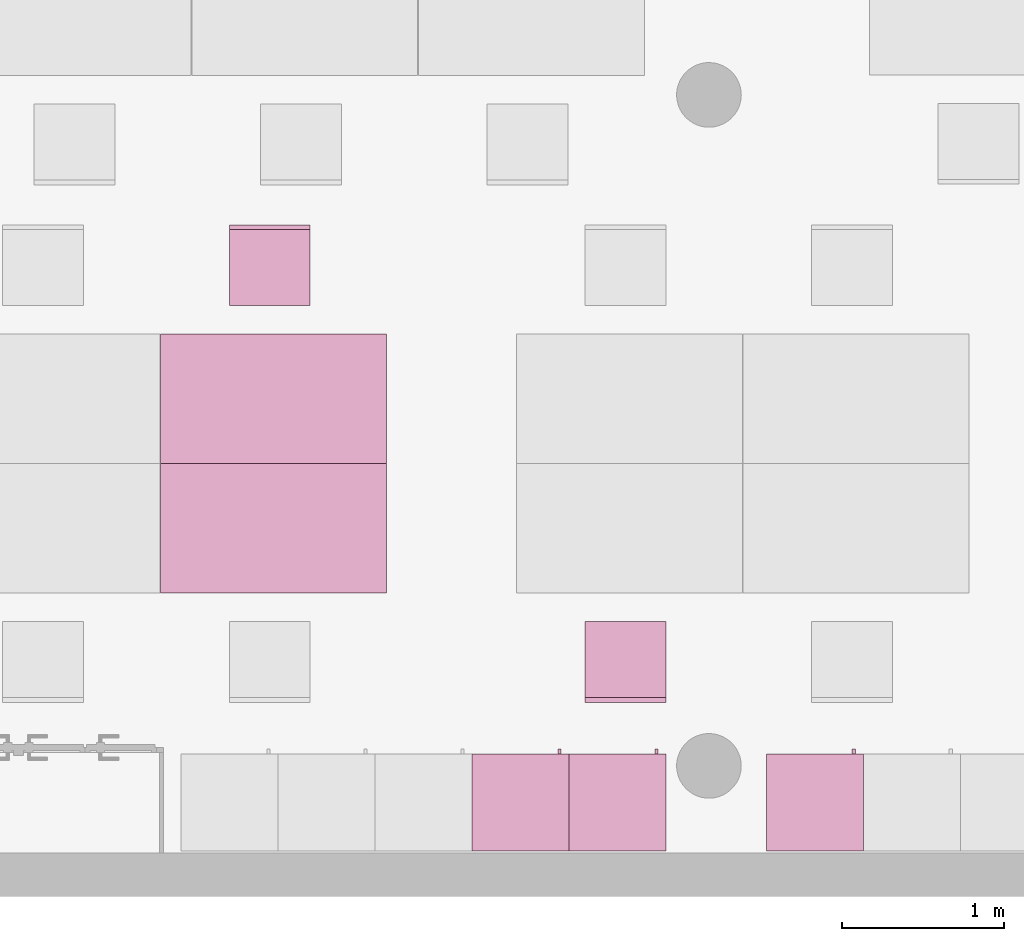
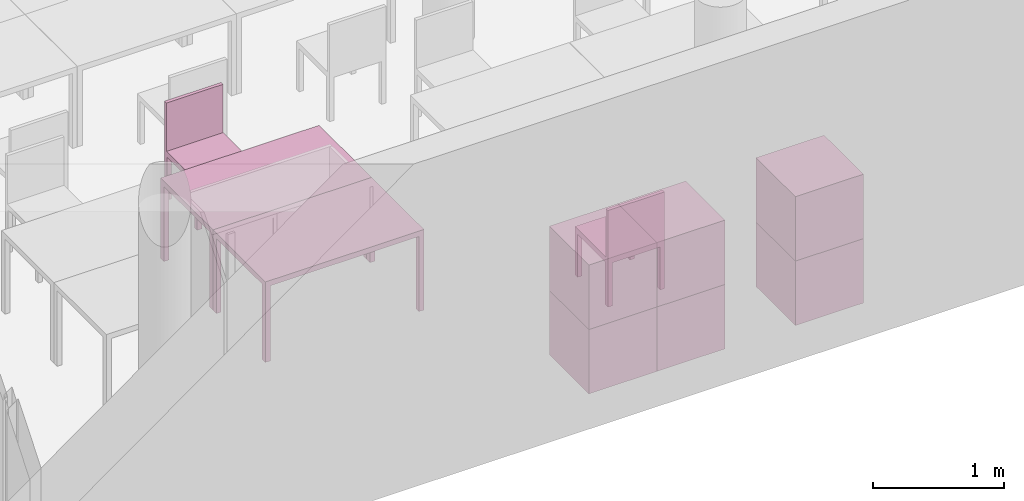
"""IFC4 building model written with IfcOpenShell, lengths in metres."""

import ifcopenshell
import ifcopenshell.guid

model = None  # the IFC model being written
_history = None  # IfcOwnerHistory: only IFC2X3 demands one
_inside = {}  # id of a spatial element -> (the spatial element, [elements in it])
_under = {}  # id of a project, library or spatial element -> (it, [spatial elements below it])
_declared = {}  # id of a project -> (the project, [libraries it declares])
_typed = {}  # id of a type object -> (the type object, [elements of that type])
_made_of = {}  # id of a material, layer set ... -> (it, [elements and type objects made of it])


def new_model(schema):
    """Start an empty IFC model of exactly this schema.

    Asked for "IFC4X3", IfcOpenShell would pick the latest addendum, in which some entities
    have other attributes; the version numbers below select the first issue.
    IFC2X3 requires an IfcOwnerHistory on every rooted entity: one is made here for all.
    """
    global model, _history
    if schema == "IFC4X3":
        model = ifcopenshell.file(schema_version=(4, 3, 0, 0))
    else:
        model = ifcopenshell.file(schema=schema)
    _inside.clear()
    _under.clear()
    _declared.clear()
    _typed.clear()
    _made_of.clear()
    _history = None
    if model.schema == "IFC2X3":
        org = make("IfcOrganization", Name="unknown")
        user = make(
            "IfcPersonAndOrganization",
            ThePerson=make("IfcPerson", FamilyName="unknown"),
            TheOrganization=org,
        )
        app = make(
            "IfcApplication",
            ApplicationDeveloper=org,
            Version="unknown",
            ApplicationFullName="unknown",
            ApplicationIdentifier="unknown",
        )
        _history = make(
            "IfcOwnerHistory",
            OwningUser=user,
            OwningApplication=app,
            ChangeAction="ADDED",
            CreationDate=0,
        )
    return model


def make(cls, **values):
    """One entity of the class cls with the attributes given. An attribute that is None is left unset."""
    return model.create_entity(
        cls, **{name: value for name, value in values.items() if value is not None}
    )


def entity(cls, *values):
    """Any entity or typed value of the class cls, its attributes in the order of the schema. None: left unset."""
    e = model.create_entity(cls)
    for i, value in enumerate(values):
        if value is not None:
            e[i] = value
    return e


def rooted(cls, **values):
    """An entity with a GlobalId (a new one), such as an element, a storey or a relation."""
    return make(cls, GlobalId=ifcopenshell.guid.new(), OwnerHistory=_history, **values)


def si_unit(unit_type, name, prefix=None):
    """IfcSIUnit, for example si_unit("LENGTHUNIT", "METRE", prefix="MILLI")."""
    return make("IfcSIUnit", UnitType=unit_type, Prefix=prefix, Name=name)


def converted_unit(unit_type, name, factor, base, dimensions=None, offset=None):
    """IfcConversionBasedUnit, such as the inch: factor (a typed value) times the base unit."""
    return make(
        "IfcConversionBasedUnit"
        if offset is None
        else "IfcConversionBasedUnitWithOffset",
        ConversionOffset=offset,
        Dimensions=None
        if dimensions is None
        else entity("IfcDimensionalExponents", *dimensions),
        UnitType=unit_type,
        Name=name,
        ConversionFactor=make(
            "IfcMeasureWithUnit", ValueComponent=factor, UnitComponent=base
        ),
    )


def derived_unit(unit_type, elements):
    """IfcDerivedUnit: a product of units, each with its exponent."""
    return make(
        "IfcDerivedUnit",
        Elements=[
            make("IfcDerivedUnitElement", Unit=unit, Exponent=power)
            for unit, power in elements
        ],
        UnitType=unit_type,
    )


def assignment(units):
    """IfcUnitAssignment: the units of a project."""
    return None if units is None else make("IfcUnitAssignment", Units=units)


def point(xyz):
    """IfcCartesianPoint."""
    return None if xyz is None else make("IfcCartesianPoint", Coordinates=xyz)


def direction(xyz):
    """IfcDirection."""
    return None if xyz is None else make("IfcDirection", DirectionRatios=xyz)


def frame(location, z_axis=None, x_axis=None):
    """IfcAxis2Placement3D, a coordinate frame: its origin and axes. An axis left out is left unset."""
    return make(
        "IfcAxis2Placement3D",
        Location=point(location),
        Axis=direction(z_axis),
        RefDirection=direction(x_axis),
    )


def origin():
    """The frame at (0, 0, 0) with its axes left unset."""
    return frame((0.0, 0.0, 0.0))


def place(relative_to, where):
    """IfcLocalPlacement: puts the frame where relative to a parent placement (None: the world)."""
    return make(
        "IfcLocalPlacement", PlacementRelTo=relative_to, RelativePlacement=where
    )


def context(
    kind, dimensions, precision=None, world=None, true_north=None, identifier=None
):
    """IfcGeometricRepresentationContext, for example the 3D "Model" context."""
    return make(
        "IfcGeometricRepresentationContext",
        ContextIdentifier=identifier,
        ContextType=kind,
        CoordinateSpaceDimension=dimensions,
        Precision=precision,
        WorldCoordinateSystem=world,
        TrueNorth=true_north,
    )


def subcontext(parent, identifier, kind, view, scale=None):
    """IfcGeometricRepresentationSubContext, for example "Body" below "Model"."""
    return make(
        "IfcGeometricRepresentationSubContext",
        ContextIdentifier=identifier,
        ContextType=kind,
        ParentContext=parent,
        TargetScale=scale,
        TargetView=view,
    )


def project(units=None, contexts=None):
    """IfcProject with its units and contexts."""
    return rooted(
        "IfcProject",
        Name="project",
        RepresentationContexts=contexts,
        UnitsInContext=assignment(units),
    )


def spatial(cls, under=None, at=None, **own):
    """A site, building, storey or space (cls), placed at a placement, below another one or the project."""
    s = rooted(cls, ObjectPlacement=at, **own)
    if under is not None:
        _under.setdefault(under.id(), (under, []))[1].append(s)
    return s


def faces_of(points, faces, orient=None, outer=None):
    """IfcFace entities. A face is a list of loops; a loop is a list of indices into points, from 0.

    orient and outer hold one flag for each loop. By default every Orientation is true, the
    first loop of a face is its IfcFaceOuterBound and the others are IfcFaceBound.
    """
    made = []
    for i, loops in enumerate(faces):
        bounds = []
        for j, loop in enumerate(loops):
            is_outer = j == 0 if outer is None else outer[i][j]
            bounds.append(
                make(
                    "IfcFaceOuterBound" if is_outer else "IfcFaceBound",
                    Bound=make("IfcPolyLoop", Polygon=[points[k] for k in loop]),
                    Orientation=True if orient is None else orient[i][j],
                )
            )
        made.append(make("IfcFace", Bounds=bounds))
    return made


def faceted_brep(points, faces, orient=None, outer=None, voids=None):
    """IfcFacetedBrep: a solid bounded by flat faces; with voids (closed shells), ...WithVoids."""
    shared = [point(p) for p in points]
    hull = make("IfcClosedShell", CfsFaces=faces_of(shared, faces, orient, outer))
    if voids is None:
        return make("IfcFacetedBrep", Outer=hull)
    return make(
        "IfcFacetedBrepWithVoids",
        Outer=hull,
        Voids=[
            make(cls, CfsFaces=faces_of(shared, fs, o, b)) for cls, fs, o, b in voids
        ],
    )


def shape(context_of_items, identifier, shape_type, items):
    """IfcShapeRepresentation: the items that make up one representation, for example the "Body"."""
    return make(
        "IfcShapeRepresentation",
        ContextOfItems=context_of_items,
        RepresentationIdentifier=identifier,
        RepresentationType=shape_type,
        Items=items,
    )


def made_of(thing, what):
    """Note that an element or type object is made of a material, layer set ...; save() writes the relation."""
    if what is not None:
        _made_of.setdefault(what.id(), (what, []))[1].append(thing)
    return thing


def element(
    cls,
    number,
    at=None,
    inside=None,
    cuts=None,
    type_object=None,
    material=None,
    context=None,
    identifier="Body",
    shape_type=None,
    held_by="IfcProductDefinitionShape",
    body=None,
    shapes=None,
    **own,
):
    """One element of the class cls, such as IfcWall. Its Tag is "e" and its number.

    at: its placement. inside: the storey or other place that contains it. cuts: it is an
    opening in that element (IfcRelVoidsElement). A single representation is given by context,
    identifier, shape_type and body (its items); several are given by shapes. held_by: the class
    of the entity that holds the representations. save() writes the other relations.
    """
    e = rooted(cls, Tag="e%d" % number, ObjectPlacement=at, **own)
    if body is not None:
        shapes = [shape(context, identifier, shape_type, body)]
    if shapes is not None:
        e.Representation = make(held_by, Representations=shapes)
    if inside is not None:
        _inside.setdefault(inside.id(), (inside, []))[1].append(e)
    if cuts is not None:
        rooted(
            "IfcRelVoidsElement", RelatingBuildingElement=cuts, RelatedOpeningElement=e
        )
    if type_object is not None:
        _typed.setdefault(type_object.id(), (type_object, []))[1].append(e)
    return made_of(e, material)


def aggregate(whole, parts):
    """IfcRelAggregates: a whole, such as a stair, and the parts it consists of."""
    return rooted("IfcRelAggregates", RelatingObject=whole, RelatedObjects=parts)


def save(model, path):
    """Write the relations noted so far, then the file.

    IfcRelAggregates (storeys below a building ...), IfcRelContainedInSpatialStructure (elements
    in a storey), IfcRelDefinesByType, IfcRelAssociatesMaterial and IfcRelDeclares: one each for
    every whole, place, type object, material and project.
    """
    for whole, parts in _under.values():
        aggregate(whole, parts)
    for where, things in _inside.values():
        rooted(
            "IfcRelContainedInSpatialStructure",
            RelatedElements=things,
            RelatingStructure=where,
        )
    for kind, things in _typed.values():
        rooted("IfcRelDefinesByType", RelatedObjects=things, RelatingType=kind)
    for what, things in _made_of.values():
        rooted("IfcRelAssociatesMaterial", RelatedObjects=things, RelatingMaterial=what)
    for by, libraries in _declared.values():
        rooted("IfcRelDeclares", RelatingContext=by, RelatedDefinitions=libraries)
    model.write(path)


model = new_model("IFC4")

# Units and contexts
model_context = context("Model", 3, precision=1e-05, world=origin())
body_context = subcontext(model_context, "Body", "Model", "MODEL_VIEW")
ifc_project = project(units=[si_unit("LENGTHUNIT", "METRE"), si_unit("AREAUNIT", "SQUARE_METRE"), si_unit("VOLUMEUNIT", "CUBIC_METRE"), si_unit("MASSUNIT", "GRAM", prefix="KILO"), converted_unit("PLANEANGLEUNIT", "DEGREE", entity("IfcPlaneAngleMeasure", 0.0174532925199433), si_unit("PLANEANGLEUNIT", "RADIAN"), dimensions=[0, 0, 0, 0, 0, 0, 0]), derived_unit("THERMALTRANSMITTANCEUNIT", [(si_unit("POWERUNIT", "WATT"), 1), (si_unit("THERMODYNAMICTEMPERATUREUNIT", "KELVIN"), -1), (si_unit("LENGTHUNIT", "METRE"), -2)]), derived_unit("VOLUMETRICFLOWRATEUNIT", [(si_unit("LENGTHUNIT", "METRE"), 3), (converted_unit("TIMEUNIT", "hour", entity("IfcTimeMeasure", 3600.0), si_unit("TIMEUNIT", "SECOND"), dimensions=[0, 0, 1, 0, 0, 0, 0]), -1), (si_unit("LENGTHUNIT", "METRE"), -1)])], contexts=[model_context])

# Building, storeys
building_placement = place(None, origin())
building = spatial("IfcBuilding", under=ifc_project, at=building_placement, Name="HABITATGE PLURIFAMILIAR", CompositionType="ELEMENT")
storey_1_placement = place(building_placement, frame((0.0, 0.0, 18.29)))
storey_1 = spatial("IfcBuildingStorey", under=building, at=storey_1_placement, Name="PLANTA CINQUENA", CompositionType="ELEMENT", Elevation=18.29)
storey_2_placement = place(storey_1_placement, frame((0.0, 0.0, 15.28)))
storey_2 = spatial("IfcBuildingStorey", under=storey_1, at=storey_2_placement, Name="NOU", CompositionType="PARTIAL")

# Furniture
furniture_1_placement = place(storey_2_placement, frame((407.342015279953, 15.5193186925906, -15.28)))
element("IfcFurniture", 1, at=furniture_1_placement, inside=storey_2, Name="Taula 140X80_P5", context=body_context, shape_type="Brep", body=[
    faceted_brep([(0.04375, 0.05, 0.0), (0.0, 0.05, 0.0), (0.0, 0.0, 0.0), (0.04375, 0.0, 0.0), (0.04375, 0.0, 0.7), (0.0, 0.0, 0.7), (0.0, 0.05, 0.7), (0.04375, 0.05, 0.7)], [[[0, 1, 2, 3]], [[4, 5, 6, 7]], [[3, 4, 7, 0]], [[2, 5, 4, 3]], [[1, 6, 5, 2]], [[0, 7, 6, 1]]], orient=[[False], [False], [False], [False], [False], [False]]),
    faceted_brep([(0.04375, 0.800069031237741, 0.0), (0.0, 0.800069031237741, 0.0), (0.0, 0.750069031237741, 0.0), (0.04375, 0.750069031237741, 0.0), (0.04375, 0.750069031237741, 0.7), (0.0, 0.750069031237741, 0.7), (0.0, 0.800069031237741, 0.7), (0.04375, 0.800069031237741, 0.7)], [[[0, 1, 2, 3]], [[4, 5, 6, 7]], [[3, 4, 7, 0]], [[2, 5, 4, 3]], [[1, 6, 5, 2]], [[0, 7, 6, 1]]], orient=[[False], [False], [False], [False], [False], [False]]),
    faceted_brep([(1.39732768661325, 0.800069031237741, 0.7), (0.0, 0.800069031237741, 0.7), (0.0, 0.0, 0.7), (1.39732768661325, 0.0, 0.7), (1.39732768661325, 0.0, 0.75), (0.0, 0.0, 0.75), (0.0, 0.800069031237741, 0.75), (1.39732768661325, 0.800069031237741, 0.75)], [[[0, 1, 2, 3]], [[4, 5, 6, 7]], [[3, 4, 7, 0]], [[2, 5, 4, 3]], [[1, 6, 5, 2]], [[0, 7, 6, 1]]], orient=[[False], [False], [False], [False], [False], [False]]),
    faceted_brep([(1.39732768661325, 0.05, 0.0), (1.35357768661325, 0.05, 0.0), (1.35357768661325, 0.0, 0.0), (1.39732768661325, 0.0, 0.0), (1.39732768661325, 0.0, 0.7), (1.35357768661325, 0.0, 0.7), (1.35357768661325, 0.05, 0.7), (1.39732768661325, 0.05, 0.7)], [[[0, 1, 2, 3]], [[4, 5, 6, 7]], [[3, 4, 7, 0]], [[2, 5, 4, 3]], [[1, 6, 5, 2]], [[0, 7, 6, 1]]], orient=[[False], [False], [False], [False], [False], [False]]),
    faceted_brep([(1.39732768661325, 0.800069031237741, 0.0), (1.35357768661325, 0.800069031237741, 0.0), (1.35357768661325, 0.750069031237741, 0.0), (1.39732768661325, 0.750069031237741, 0.0), (1.39732768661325, 0.750069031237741, 0.7), (1.35357768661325, 0.750069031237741, 0.7), (1.35357768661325, 0.800069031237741, 0.7), (1.39732768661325, 0.800069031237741, 0.7)], [[[0, 1, 2, 3]], [[4, 5, 6, 7]], [[3, 4, 7, 0]], [[2, 5, 4, 3]], [[1, 6, 5, 2]], [[0, 7, 6, 1]]], orient=[[False], [False], [False], [False], [False], [False]]),
])
furniture_2_placement = place(storey_2_placement, frame((407.342015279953, 14.7192496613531, -15.28)))
element("IfcFurniture", 2, at=furniture_2_placement, inside=storey_2, Name="Taula 140X80_P5", context=body_context, shape_type="Brep", body=[
    faceted_brep([(0.04375, 0.750069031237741, 0.0), (0.04375, 0.800069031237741, 0.0), (0.0, 0.800069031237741, 0.0), (0.0, 0.750069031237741, 0.0), (0.04375, 0.800069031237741, 0.7), (0.04375, 0.750069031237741, 0.7), (0.0, 0.750069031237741, 0.7), (0.0, 0.800069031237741, 0.7)], [[[0, 1, 2, 3]], [[4, 5, 6, 7]], [[1, 0, 5, 4]], [[2, 1, 4, 7]], [[3, 2, 7, 6]], [[0, 3, 6, 5]]], orient=[[False], [False], [False], [False], [False], [False]]),
    faceted_brep([(0.04375, 0.0, 0.0), (0.04375, 0.05, 0.0), (0.0, 0.05, 0.0), (0.0, 0.0, 0.0), (0.04375, 0.05, 0.7), (0.04375, 0.0, 0.7), (0.0, 0.0, 0.7), (0.0, 0.05, 0.7)], [[[0, 1, 2, 3]], [[4, 5, 6, 7]], [[1, 0, 5, 4]], [[2, 1, 4, 7]], [[3, 2, 7, 6]], [[0, 3, 6, 5]]], orient=[[False], [False], [False], [False], [False], [False]]),
    faceted_brep([(1.39732768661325, 0.0, 0.7), (1.39732768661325, 0.800069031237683, 0.7), (0.0, 0.800069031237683, 0.7), (0.0, 0.0, 0.7), (1.39732768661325, 0.800069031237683, 0.75), (1.39732768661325, 0.0, 0.75), (0.0, 0.0, 0.75), (0.0, 0.800069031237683, 0.75)], [[[0, 1, 2, 3]], [[4, 5, 6, 7]], [[1, 0, 5, 4]], [[2, 1, 4, 7]], [[3, 2, 7, 6]], [[0, 3, 6, 5]]], orient=[[False], [False], [False], [False], [False], [False]]),
    faceted_brep([(1.39732768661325, 0.750069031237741, 0.0), (1.39732768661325, 0.800069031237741, 0.0), (1.35357768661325, 0.800069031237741, 0.0), (1.35357768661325, 0.750069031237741, 0.0), (1.39732768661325, 0.800069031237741, 0.7), (1.39732768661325, 0.750069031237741, 0.7), (1.35357768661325, 0.750069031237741, 0.7), (1.35357768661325, 0.800069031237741, 0.7)], [[[0, 1, 2, 3]], [[4, 5, 6, 7]], [[1, 0, 5, 4]], [[2, 1, 4, 7]], [[3, 2, 7, 6]], [[0, 3, 6, 5]]], orient=[[False], [False], [False], [False], [False], [False]]),
    faceted_brep([(1.39732768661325, 0.0, 0.0), (1.39732768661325, 0.05, 0.0), (1.35357768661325, 0.05, 0.0), (1.35357768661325, 0.0, 0.0), (1.39732768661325, 0.05, 0.7), (1.39732768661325, 0.0, 0.7), (1.35357768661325, 0.0, 0.7), (1.35357768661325, 0.05, 0.7)], [[[0, 1, 2, 3]], [[4, 5, 6, 7]], [[1, 0, 5, 4]], [[2, 1, 4, 7]], [[3, 2, 7, 6]], [[0, 3, 6, 5]]], orient=[[False], [False], [False], [False], [False], [False]]),
])
furniture_3_placement = place(storey_2_placement, frame((409.869266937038, 13.1230771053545, -15.2800000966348)))
element("IfcFurniture", 3, at=furniture_3_placement, inside=storey_2, Name="Armai 60x60x60_P5", context=body_context, shape_type="Brep", body=[
    faceted_brep([(0.600000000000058, 0.6, 0.02), (0.0, 0.6, 0.02), (0.0, 0.6, 0.0), (0.600000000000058, 0.6, 0.0), (0.0, 0.0, 0.02), (0.0, 0.0, 0.0), (0.600000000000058, 0.0, 0.02), (0.600000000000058, 0.0, 0.0)], [[[0, 1, 2, 3]], [[1, 4, 5, 2]], [[4, 6, 7, 5]], [[6, 0, 3, 7]], [[0, 6, 4, 1]], [[3, 2, 5, 7]]], orient=[[False], [False], [False], [False], [False], [False]]),
    faceted_brep([(0.02, 0.0, 0.58), (0.02, 0.0, 0.02), (0.02, 0.0200000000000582, 0.02), (0.02, 0.0200000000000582, 0.58), (0.58, 0.0, 0.02), (0.58, 0.0200000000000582, 0.02), (0.58, 0.0, 0.58), (0.58, 0.0200000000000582, 0.58)], [[[0, 1, 2, 3]], [[1, 4, 5, 2]], [[4, 6, 7, 5]], [[6, 0, 3, 7]], [[0, 6, 4, 1]], [[3, 2, 5, 7]]], orient=[[False], [False], [False], [False], [False], [False]]),
    faceted_brep([(0.58, 0.6, 0.58), (0.58, 0.6, 0.02), (0.6, 0.6, 0.02), (0.6, 0.6, 0.58), (0.58, 0.0, 0.02), (0.6, 0.0, 0.02), (0.58, 0.0, 0.58), (0.6, 0.0, 0.58)], [[[0, 1, 2, 3]], [[1, 4, 5, 2]], [[4, 6, 7, 5]], [[6, 0, 3, 7]], [[0, 6, 4, 1]], [[3, 2, 5, 7]]], orient=[[False], [False], [False], [False], [False], [False]]),
    faceted_brep([(0.600000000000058, 0.58, 0.58), (0.600000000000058, 0.58, 0.02), (0.600000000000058, 0.6, 0.02), (0.600000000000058, 0.6, 0.58), (0.580000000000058, 0.58, 0.02), (0.580000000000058, 0.6, 0.02), (0.580000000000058, 0.58, 0.58), (0.580000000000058, 0.6, 0.58)], [[[0, 1, 2, 3]], [[1, 4, 5, 2]], [[4, 6, 7, 5]], [[6, 0, 3, 7]], [[0, 6, 4, 1]], [[3, 2, 5, 7]]], orient=[[False], [False], [False], [False], [False], [False]]),
    faceted_brep([(0.0, 0.6, 0.58), (0.0, 0.6, 0.02), (0.0200000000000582, 0.6, 0.02), (0.0200000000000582, 0.6, 0.58), (0.0, 0.0, 0.02), (0.0200000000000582, 0.0, 0.02), (0.0, 0.0, 0.58), (0.0200000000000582, 0.0, 0.58)], [[[0, 1, 2, 3]], [[1, 4, 5, 2]], [[4, 6, 7, 5]], [[6, 0, 3, 7]], [[0, 6, 4, 1]], [[3, 2, 5, 7]]], orient=[[False], [False], [False], [False], [False], [False]]),
    faceted_brep([(0.6, 0.600000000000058, 0.6), (0.0, 0.600000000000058, 0.6), (0.0, 0.600000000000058, 0.58), (0.6, 0.600000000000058, 0.58), (0.0, 0.0, 0.6), (0.0, 0.0, 0.58), (0.6, 0.0, 0.6), (0.6, 0.0, 0.58)], [[[0, 1, 2, 3]], [[1, 4, 5, 2]], [[4, 6, 7, 5]], [[6, 0, 3, 7]], [[0, 6, 4, 1]], [[3, 2, 5, 7]]], orient=[[False], [False], [False], [False], [False], [False]]),
    faceted_brep([(0.02, 0.580000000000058, 0.58), (0.02, 0.580000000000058, 0.02), (0.02, 0.600000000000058, 0.02), (0.02, 0.600000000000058, 0.58), (0.580000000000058, 0.580000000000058, 0.02), (0.580000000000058, 0.600000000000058, 0.02), (0.580000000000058, 0.580000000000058, 0.58), (0.580000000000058, 0.600000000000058, 0.58)], [[[0, 1, 2, 3]], [[1, 4, 5, 2]], [[4, 6, 7, 5]], [[6, 0, 3, 7]], [[0, 6, 4, 1]], [[3, 2, 5, 7]]], orient=[[False], [False], [False], [False], [False], [False]]),
    faceted_brep([(0.53, 0.600000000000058, 0.358064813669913), (0.53, 0.600000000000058, 0.258064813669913), (0.53, 0.630000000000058, 0.258064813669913), (0.53, 0.630000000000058, 0.358064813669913), (0.55, 0.600000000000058, 0.258064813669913), (0.55, 0.630000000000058, 0.258064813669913), (0.55, 0.600000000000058, 0.358064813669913), (0.55, 0.630000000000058, 0.358064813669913)], [[[0, 1, 2, 3]], [[1, 4, 5, 2]], [[4, 6, 7, 5]], [[6, 0, 3, 7]], [[0, 6, 4, 1]], [[3, 2, 5, 7]]], orient=[[False], [False], [False], [False], [False], [False]]),
])
furniture_4_placement = place(storey_2_placement, frame((409.269266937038, 13.1230771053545, -15.2800000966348)))
element("IfcFurniture", 4, at=furniture_4_placement, inside=storey_2, Name="Armai 60x60x60_P5", context=body_context, shape_type="Brep", body=[
    faceted_brep([(0.600000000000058, 0.6, 0.02), (0.0, 0.6, 0.02), (0.0, 0.6, 0.0), (0.600000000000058, 0.6, 0.0), (0.0, 0.0, 0.02), (0.0, 0.0, 0.0), (0.600000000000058, 0.0, 0.02), (0.600000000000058, 0.0, 0.0)], [[[0, 1, 2, 3]], [[1, 4, 5, 2]], [[4, 6, 7, 5]], [[6, 0, 3, 7]], [[0, 6, 4, 1]], [[3, 2, 5, 7]]], orient=[[False], [False], [False], [False], [False], [False]]),
    faceted_brep([(0.02, 0.0, 0.58), (0.02, 0.0, 0.02), (0.02, 0.0200000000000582, 0.02), (0.02, 0.0200000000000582, 0.58), (0.58, 0.0, 0.02), (0.58, 0.0200000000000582, 0.02), (0.58, 0.0, 0.58), (0.58, 0.0200000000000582, 0.58)], [[[0, 1, 2, 3]], [[1, 4, 5, 2]], [[4, 6, 7, 5]], [[6, 0, 3, 7]], [[0, 6, 4, 1]], [[3, 2, 5, 7]]], orient=[[False], [False], [False], [False], [False], [False]]),
    faceted_brep([(0.58, 0.6, 0.58), (0.58, 0.6, 0.02), (0.6, 0.6, 0.02), (0.6, 0.6, 0.58), (0.58, 0.0, 0.02), (0.6, 0.0, 0.02), (0.58, 0.0, 0.58), (0.6, 0.0, 0.58)], [[[0, 1, 2, 3]], [[1, 4, 5, 2]], [[4, 6, 7, 5]], [[6, 0, 3, 7]], [[0, 6, 4, 1]], [[3, 2, 5, 7]]], orient=[[False], [False], [False], [False], [False], [False]]),
    faceted_brep([(0.600000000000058, 0.58, 0.58), (0.600000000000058, 0.58, 0.02), (0.600000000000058, 0.6, 0.02), (0.600000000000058, 0.6, 0.58), (0.580000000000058, 0.58, 0.02), (0.580000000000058, 0.6, 0.02), (0.580000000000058, 0.58, 0.58), (0.580000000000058, 0.6, 0.58)], [[[0, 1, 2, 3]], [[1, 4, 5, 2]], [[4, 6, 7, 5]], [[6, 0, 3, 7]], [[0, 6, 4, 1]], [[3, 2, 5, 7]]], orient=[[False], [False], [False], [False], [False], [False]]),
    faceted_brep([(0.0, 0.6, 0.58), (0.0, 0.6, 0.02), (0.0200000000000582, 0.6, 0.02), (0.0200000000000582, 0.6, 0.58), (0.0, 0.0, 0.02), (0.0200000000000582, 0.0, 0.02), (0.0, 0.0, 0.58), (0.0200000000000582, 0.0, 0.58)], [[[0, 1, 2, 3]], [[1, 4, 5, 2]], [[4, 6, 7, 5]], [[6, 0, 3, 7]], [[0, 6, 4, 1]], [[3, 2, 5, 7]]], orient=[[False], [False], [False], [False], [False], [False]]),
    faceted_brep([(0.6, 0.600000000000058, 0.6), (0.0, 0.600000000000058, 0.6), (0.0, 0.600000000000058, 0.58), (0.6, 0.600000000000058, 0.58), (0.0, 0.0, 0.6), (0.0, 0.0, 0.58), (0.6, 0.0, 0.6), (0.6, 0.0, 0.58)], [[[0, 1, 2, 3]], [[1, 4, 5, 2]], [[4, 6, 7, 5]], [[6, 0, 3, 7]], [[0, 6, 4, 1]], [[3, 2, 5, 7]]], orient=[[False], [False], [False], [False], [False], [False]]),
    faceted_brep([(0.02, 0.580000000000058, 0.58), (0.02, 0.580000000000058, 0.02), (0.02, 0.600000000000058, 0.02), (0.02, 0.600000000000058, 0.58), (0.580000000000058, 0.580000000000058, 0.02), (0.580000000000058, 0.600000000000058, 0.02), (0.580000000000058, 0.580000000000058, 0.58), (0.580000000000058, 0.600000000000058, 0.58)], [[[0, 1, 2, 3]], [[1, 4, 5, 2]], [[4, 6, 7, 5]], [[6, 0, 3, 7]], [[0, 6, 4, 1]], [[3, 2, 5, 7]]], orient=[[False], [False], [False], [False], [False], [False]]),
    faceted_brep([(0.53, 0.600000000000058, 0.358064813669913), (0.53, 0.600000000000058, 0.258064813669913), (0.53, 0.630000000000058, 0.258064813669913), (0.53, 0.630000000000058, 0.358064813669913), (0.55, 0.600000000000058, 0.258064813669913), (0.55, 0.630000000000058, 0.258064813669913), (0.55, 0.600000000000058, 0.358064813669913), (0.55, 0.630000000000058, 0.358064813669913)], [[[0, 1, 2, 3]], [[1, 4, 5, 2]], [[4, 6, 7, 5]], [[6, 0, 3, 7]], [[0, 6, 4, 1]], [[3, 2, 5, 7]]], orient=[[False], [False], [False], [False], [False], [False]]),
])
furniture_5_placement = place(storey_2_placement, frame((411.089266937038, 13.1230771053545, -15.2800000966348)))
element("IfcFurniture", 5, at=furniture_5_placement, inside=storey_2, Name="Armai 60x60x60_P5", context=body_context, shape_type="Brep", body=[
    faceted_brep([(0.600000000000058, 0.6, 0.02), (0.0, 0.6, 0.02), (0.0, 0.6, 0.0), (0.600000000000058, 0.6, 0.0), (0.0, 0.0, 0.02), (0.0, 0.0, 0.0), (0.600000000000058, 0.0, 0.02), (0.600000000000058, 0.0, 0.0)], [[[0, 1, 2, 3]], [[1, 4, 5, 2]], [[4, 6, 7, 5]], [[6, 0, 3, 7]], [[0, 6, 4, 1]], [[3, 2, 5, 7]]], orient=[[False], [False], [False], [False], [False], [False]]),
    faceted_brep([(0.02, 0.0, 0.58), (0.02, 0.0, 0.02), (0.02, 0.0200000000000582, 0.02), (0.02, 0.0200000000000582, 0.58), (0.58, 0.0, 0.02), (0.58, 0.0200000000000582, 0.02), (0.58, 0.0, 0.58), (0.58, 0.0200000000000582, 0.58)], [[[0, 1, 2, 3]], [[1, 4, 5, 2]], [[4, 6, 7, 5]], [[6, 0, 3, 7]], [[0, 6, 4, 1]], [[3, 2, 5, 7]]], orient=[[False], [False], [False], [False], [False], [False]]),
    faceted_brep([(0.58, 0.6, 0.58), (0.58, 0.6, 0.02), (0.6, 0.6, 0.02), (0.6, 0.6, 0.58), (0.58, 0.0, 0.02), (0.6, 0.0, 0.02), (0.58, 0.0, 0.58), (0.6, 0.0, 0.58)], [[[0, 1, 2, 3]], [[1, 4, 5, 2]], [[4, 6, 7, 5]], [[6, 0, 3, 7]], [[0, 6, 4, 1]], [[3, 2, 5, 7]]], orient=[[False], [False], [False], [False], [False], [False]]),
    faceted_brep([(0.600000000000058, 0.58, 0.58), (0.600000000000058, 0.58, 0.02), (0.600000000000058, 0.6, 0.02), (0.600000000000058, 0.6, 0.58), (0.580000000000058, 0.58, 0.02), (0.580000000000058, 0.6, 0.02), (0.580000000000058, 0.58, 0.58), (0.580000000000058, 0.6, 0.58)], [[[0, 1, 2, 3]], [[1, 4, 5, 2]], [[4, 6, 7, 5]], [[6, 0, 3, 7]], [[0, 6, 4, 1]], [[3, 2, 5, 7]]], orient=[[False], [False], [False], [False], [False], [False]]),
    faceted_brep([(0.0, 0.6, 0.58), (0.0, 0.6, 0.02), (0.0200000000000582, 0.6, 0.02), (0.0200000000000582, 0.6, 0.58), (0.0, 0.0, 0.02), (0.0200000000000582, 0.0, 0.02), (0.0, 0.0, 0.58), (0.0200000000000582, 0.0, 0.58)], [[[0, 1, 2, 3]], [[1, 4, 5, 2]], [[4, 6, 7, 5]], [[6, 0, 3, 7]], [[0, 6, 4, 1]], [[3, 2, 5, 7]]], orient=[[False], [False], [False], [False], [False], [False]]),
    faceted_brep([(0.6, 0.600000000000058, 0.6), (0.0, 0.600000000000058, 0.6), (0.0, 0.600000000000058, 0.58), (0.6, 0.600000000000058, 0.58), (0.0, 0.0, 0.6), (0.0, 0.0, 0.58), (0.6, 0.0, 0.6), (0.6, 0.0, 0.58)], [[[0, 1, 2, 3]], [[1, 4, 5, 2]], [[4, 6, 7, 5]], [[6, 0, 3, 7]], [[0, 6, 4, 1]], [[3, 2, 5, 7]]], orient=[[False], [False], [False], [False], [False], [False]]),
    faceted_brep([(0.02, 0.580000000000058, 0.58), (0.02, 0.580000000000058, 0.02), (0.02, 0.600000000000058, 0.02), (0.02, 0.600000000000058, 0.58), (0.580000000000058, 0.580000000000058, 0.02), (0.580000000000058, 0.600000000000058, 0.02), (0.580000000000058, 0.580000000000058, 0.58), (0.580000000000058, 0.600000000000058, 0.58)], [[[0, 1, 2, 3]], [[1, 4, 5, 2]], [[4, 6, 7, 5]], [[6, 0, 3, 7]], [[0, 6, 4, 1]], [[3, 2, 5, 7]]], orient=[[False], [False], [False], [False], [False], [False]]),
    faceted_brep([(0.53, 0.600000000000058, 0.358064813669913), (0.53, 0.600000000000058, 0.258064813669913), (0.53, 0.630000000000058, 0.258064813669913), (0.53, 0.630000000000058, 0.358064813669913), (0.55, 0.600000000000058, 0.258064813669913), (0.55, 0.630000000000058, 0.258064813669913), (0.55, 0.600000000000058, 0.358064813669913), (0.55, 0.630000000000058, 0.358064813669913)], [[[0, 1, 2, 3]], [[1, 4, 5, 2]], [[4, 6, 7, 5]], [[6, 0, 3, 7]], [[0, 6, 4, 1]], [[3, 2, 5, 7]]], orient=[[False], [False], [False], [False], [False], [False]]),
])
furniture_6_placement = place(storey_2_placement, frame((409.869266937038, 13.1230771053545, -14.6800000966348)))
element("IfcFurniture", 6, at=furniture_6_placement, inside=storey_2, Name="Armai 60x60x60_P5", context=body_context, shape_type="Brep", body=[
    faceted_brep([(0.600000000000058, 0.6, 0.02), (0.0, 0.6, 0.02), (0.0, 0.6, 0.0), (0.600000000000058, 0.6, 0.0), (0.0, 0.0, 0.02), (0.0, 0.0, 0.0), (0.600000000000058, 0.0, 0.02), (0.600000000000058, 0.0, 0.0)], [[[0, 1, 2, 3]], [[1, 4, 5, 2]], [[4, 6, 7, 5]], [[6, 0, 3, 7]], [[0, 6, 4, 1]], [[3, 2, 5, 7]]], orient=[[False], [False], [False], [False], [False], [False]]),
    faceted_brep([(0.02, 0.0, 0.58), (0.02, 0.0, 0.02), (0.02, 0.0200000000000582, 0.02), (0.02, 0.0200000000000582, 0.58), (0.58, 0.0, 0.02), (0.58, 0.0200000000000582, 0.02), (0.58, 0.0, 0.58), (0.58, 0.0200000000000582, 0.58)], [[[0, 1, 2, 3]], [[1, 4, 5, 2]], [[4, 6, 7, 5]], [[6, 0, 3, 7]], [[0, 6, 4, 1]], [[3, 2, 5, 7]]], orient=[[False], [False], [False], [False], [False], [False]]),
    faceted_brep([(0.58, 0.6, 0.58), (0.58, 0.6, 0.02), (0.6, 0.6, 0.02), (0.6, 0.6, 0.58), (0.58, 0.0, 0.02), (0.6, 0.0, 0.02), (0.58, 0.0, 0.58), (0.6, 0.0, 0.58)], [[[0, 1, 2, 3]], [[1, 4, 5, 2]], [[4, 6, 7, 5]], [[6, 0, 3, 7]], [[0, 6, 4, 1]], [[3, 2, 5, 7]]], orient=[[False], [False], [False], [False], [False], [False]]),
    faceted_brep([(0.600000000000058, 0.58, 0.58), (0.600000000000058, 0.58, 0.02), (0.600000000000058, 0.6, 0.02), (0.600000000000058, 0.6, 0.58), (0.580000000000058, 0.58, 0.02), (0.580000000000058, 0.6, 0.02), (0.580000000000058, 0.58, 0.58), (0.580000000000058, 0.6, 0.58)], [[[0, 1, 2, 3]], [[1, 4, 5, 2]], [[4, 6, 7, 5]], [[6, 0, 3, 7]], [[0, 6, 4, 1]], [[3, 2, 5, 7]]], orient=[[False], [False], [False], [False], [False], [False]]),
    faceted_brep([(0.0, 0.6, 0.58), (0.0, 0.6, 0.02), (0.0200000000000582, 0.6, 0.02), (0.0200000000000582, 0.6, 0.58), (0.0, 0.0, 0.02), (0.0200000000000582, 0.0, 0.02), (0.0, 0.0, 0.58), (0.0200000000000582, 0.0, 0.58)], [[[0, 1, 2, 3]], [[1, 4, 5, 2]], [[4, 6, 7, 5]], [[6, 0, 3, 7]], [[0, 6, 4, 1]], [[3, 2, 5, 7]]], orient=[[False], [False], [False], [False], [False], [False]]),
    faceted_brep([(0.6, 0.600000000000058, 0.6), (0.0, 0.600000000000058, 0.6), (0.0, 0.600000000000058, 0.58), (0.6, 0.600000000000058, 0.58), (0.0, 0.0, 0.6), (0.0, 0.0, 0.58), (0.6, 0.0, 0.6), (0.6, 0.0, 0.58)], [[[0, 1, 2, 3]], [[1, 4, 5, 2]], [[4, 6, 7, 5]], [[6, 0, 3, 7]], [[0, 6, 4, 1]], [[3, 2, 5, 7]]], orient=[[False], [False], [False], [False], [False], [False]]),
    faceted_brep([(0.02, 0.580000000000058, 0.58), (0.02, 0.580000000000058, 0.02), (0.02, 0.600000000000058, 0.02), (0.02, 0.600000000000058, 0.58), (0.580000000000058, 0.580000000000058, 0.02), (0.580000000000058, 0.600000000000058, 0.02), (0.580000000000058, 0.580000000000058, 0.58), (0.580000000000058, 0.600000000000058, 0.58)], [[[0, 1, 2, 3]], [[1, 4, 5, 2]], [[4, 6, 7, 5]], [[6, 0, 3, 7]], [[0, 6, 4, 1]], [[3, 2, 5, 7]]], orient=[[False], [False], [False], [False], [False], [False]]),
    faceted_brep([(0.53, 0.600000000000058, 0.358064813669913), (0.53, 0.600000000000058, 0.258064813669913), (0.53, 0.630000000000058, 0.258064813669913), (0.53, 0.630000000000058, 0.358064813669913), (0.55, 0.600000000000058, 0.258064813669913), (0.55, 0.630000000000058, 0.258064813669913), (0.55, 0.600000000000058, 0.358064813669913), (0.55, 0.630000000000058, 0.358064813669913)], [[[0, 1, 2, 3]], [[1, 4, 5, 2]], [[4, 6, 7, 5]], [[6, 0, 3, 7]], [[0, 6, 4, 1]], [[3, 2, 5, 7]]], orient=[[False], [False], [False], [False], [False], [False]]),
])
furniture_7_placement = place(storey_2_placement, frame((409.269266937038, 13.1230771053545, -14.6800000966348)))
element("IfcFurniture", 7, at=furniture_7_placement, inside=storey_2, Name="Armai 60x60x60_P5", context=body_context, shape_type="Brep", body=[
    faceted_brep([(0.600000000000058, 0.6, 0.02), (0.0, 0.6, 0.02), (0.0, 0.6, 0.0), (0.600000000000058, 0.6, 0.0), (0.0, 0.0, 0.02), (0.0, 0.0, 0.0), (0.600000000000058, 0.0, 0.02), (0.600000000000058, 0.0, 0.0)], [[[0, 1, 2, 3]], [[1, 4, 5, 2]], [[4, 6, 7, 5]], [[6, 0, 3, 7]], [[0, 6, 4, 1]], [[3, 2, 5, 7]]], orient=[[False], [False], [False], [False], [False], [False]]),
    faceted_brep([(0.02, 0.0, 0.58), (0.02, 0.0, 0.02), (0.02, 0.0200000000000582, 0.02), (0.02, 0.0200000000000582, 0.58), (0.58, 0.0, 0.02), (0.58, 0.0200000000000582, 0.02), (0.58, 0.0, 0.58), (0.58, 0.0200000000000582, 0.58)], [[[0, 1, 2, 3]], [[1, 4, 5, 2]], [[4, 6, 7, 5]], [[6, 0, 3, 7]], [[0, 6, 4, 1]], [[3, 2, 5, 7]]], orient=[[False], [False], [False], [False], [False], [False]]),
    faceted_brep([(0.58, 0.6, 0.58), (0.58, 0.6, 0.02), (0.6, 0.6, 0.02), (0.6, 0.6, 0.58), (0.58, 0.0, 0.02), (0.6, 0.0, 0.02), (0.58, 0.0, 0.58), (0.6, 0.0, 0.58)], [[[0, 1, 2, 3]], [[1, 4, 5, 2]], [[4, 6, 7, 5]], [[6, 0, 3, 7]], [[0, 6, 4, 1]], [[3, 2, 5, 7]]], orient=[[False], [False], [False], [False], [False], [False]]),
    faceted_brep([(0.600000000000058, 0.58, 0.58), (0.600000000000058, 0.58, 0.02), (0.600000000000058, 0.6, 0.02), (0.600000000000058, 0.6, 0.58), (0.580000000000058, 0.58, 0.02), (0.580000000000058, 0.6, 0.02), (0.580000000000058, 0.58, 0.58), (0.580000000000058, 0.6, 0.58)], [[[0, 1, 2, 3]], [[1, 4, 5, 2]], [[4, 6, 7, 5]], [[6, 0, 3, 7]], [[0, 6, 4, 1]], [[3, 2, 5, 7]]], orient=[[False], [False], [False], [False], [False], [False]]),
    faceted_brep([(0.0, 0.6, 0.58), (0.0, 0.6, 0.02), (0.0200000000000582, 0.6, 0.02), (0.0200000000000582, 0.6, 0.58), (0.0, 0.0, 0.02), (0.0200000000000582, 0.0, 0.02), (0.0, 0.0, 0.58), (0.0200000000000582, 0.0, 0.58)], [[[0, 1, 2, 3]], [[1, 4, 5, 2]], [[4, 6, 7, 5]], [[6, 0, 3, 7]], [[0, 6, 4, 1]], [[3, 2, 5, 7]]], orient=[[False], [False], [False], [False], [False], [False]]),
    faceted_brep([(0.6, 0.600000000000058, 0.6), (0.0, 0.600000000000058, 0.6), (0.0, 0.600000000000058, 0.58), (0.6, 0.600000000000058, 0.58), (0.0, 0.0, 0.6), (0.0, 0.0, 0.58), (0.6, 0.0, 0.6), (0.6, 0.0, 0.58)], [[[0, 1, 2, 3]], [[1, 4, 5, 2]], [[4, 6, 7, 5]], [[6, 0, 3, 7]], [[0, 6, 4, 1]], [[3, 2, 5, 7]]], orient=[[False], [False], [False], [False], [False], [False]]),
    faceted_brep([(0.02, 0.580000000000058, 0.58), (0.02, 0.580000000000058, 0.02), (0.02, 0.600000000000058, 0.02), (0.02, 0.600000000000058, 0.58), (0.580000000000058, 0.580000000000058, 0.02), (0.580000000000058, 0.600000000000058, 0.02), (0.580000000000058, 0.580000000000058, 0.58), (0.580000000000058, 0.600000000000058, 0.58)], [[[0, 1, 2, 3]], [[1, 4, 5, 2]], [[4, 6, 7, 5]], [[6, 0, 3, 7]], [[0, 6, 4, 1]], [[3, 2, 5, 7]]], orient=[[False], [False], [False], [False], [False], [False]]),
    faceted_brep([(0.53, 0.600000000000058, 0.358064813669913), (0.53, 0.600000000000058, 0.258064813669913), (0.53, 0.630000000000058, 0.258064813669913), (0.53, 0.630000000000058, 0.358064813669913), (0.55, 0.600000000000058, 0.258064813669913), (0.55, 0.630000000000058, 0.258064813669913), (0.55, 0.600000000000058, 0.358064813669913), (0.55, 0.630000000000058, 0.358064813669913)], [[[0, 1, 2, 3]], [[1, 4, 5, 2]], [[4, 6, 7, 5]], [[6, 0, 3, 7]], [[0, 6, 4, 1]], [[3, 2, 5, 7]]], orient=[[False], [False], [False], [False], [False], [False]]),
])
furniture_8_placement = place(storey_2_placement, frame((411.089266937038, 13.1230771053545, -14.6800000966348)))
element("IfcFurniture", 8, at=furniture_8_placement, inside=storey_2, Name="Armai 60x60x60_P5", context=body_context, shape_type="Brep", body=[
    faceted_brep([(0.600000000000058, 0.6, 0.02), (0.0, 0.6, 0.02), (0.0, 0.6, 0.0), (0.600000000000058, 0.6, 0.0), (0.0, 0.0, 0.02), (0.0, 0.0, 0.0), (0.600000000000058, 0.0, 0.02), (0.600000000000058, 0.0, 0.0)], [[[0, 1, 2, 3]], [[1, 4, 5, 2]], [[4, 6, 7, 5]], [[6, 0, 3, 7]], [[0, 6, 4, 1]], [[3, 2, 5, 7]]], orient=[[False], [False], [False], [False], [False], [False]]),
    faceted_brep([(0.02, 0.0, 0.58), (0.02, 0.0, 0.02), (0.02, 0.0200000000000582, 0.02), (0.02, 0.0200000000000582, 0.58), (0.58, 0.0, 0.02), (0.58, 0.0200000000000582, 0.02), (0.58, 0.0, 0.58), (0.58, 0.0200000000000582, 0.58)], [[[0, 1, 2, 3]], [[1, 4, 5, 2]], [[4, 6, 7, 5]], [[6, 0, 3, 7]], [[0, 6, 4, 1]], [[3, 2, 5, 7]]], orient=[[False], [False], [False], [False], [False], [False]]),
    faceted_brep([(0.58, 0.6, 0.58), (0.58, 0.6, 0.02), (0.6, 0.6, 0.02), (0.6, 0.6, 0.58), (0.58, 0.0, 0.02), (0.6, 0.0, 0.02), (0.58, 0.0, 0.58), (0.6, 0.0, 0.58)], [[[0, 1, 2, 3]], [[1, 4, 5, 2]], [[4, 6, 7, 5]], [[6, 0, 3, 7]], [[0, 6, 4, 1]], [[3, 2, 5, 7]]], orient=[[False], [False], [False], [False], [False], [False]]),
    faceted_brep([(0.600000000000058, 0.58, 0.58), (0.600000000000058, 0.58, 0.02), (0.600000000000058, 0.6, 0.02), (0.600000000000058, 0.6, 0.58), (0.580000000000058, 0.58, 0.02), (0.580000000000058, 0.6, 0.02), (0.580000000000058, 0.58, 0.58), (0.580000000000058, 0.6, 0.58)], [[[0, 1, 2, 3]], [[1, 4, 5, 2]], [[4, 6, 7, 5]], [[6, 0, 3, 7]], [[0, 6, 4, 1]], [[3, 2, 5, 7]]], orient=[[False], [False], [False], [False], [False], [False]]),
    faceted_brep([(0.0, 0.6, 0.58), (0.0, 0.6, 0.02), (0.0200000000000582, 0.6, 0.02), (0.0200000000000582, 0.6, 0.58), (0.0, 0.0, 0.02), (0.0200000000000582, 0.0, 0.02), (0.0, 0.0, 0.58), (0.0200000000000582, 0.0, 0.58)], [[[0, 1, 2, 3]], [[1, 4, 5, 2]], [[4, 6, 7, 5]], [[6, 0, 3, 7]], [[0, 6, 4, 1]], [[3, 2, 5, 7]]], orient=[[False], [False], [False], [False], [False], [False]]),
    faceted_brep([(0.6, 0.600000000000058, 0.6), (0.0, 0.600000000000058, 0.6), (0.0, 0.600000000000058, 0.58), (0.6, 0.600000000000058, 0.58), (0.0, 0.0, 0.6), (0.0, 0.0, 0.58), (0.6, 0.0, 0.6), (0.6, 0.0, 0.58)], [[[0, 1, 2, 3]], [[1, 4, 5, 2]], [[4, 6, 7, 5]], [[6, 0, 3, 7]], [[0, 6, 4, 1]], [[3, 2, 5, 7]]], orient=[[False], [False], [False], [False], [False], [False]]),
    faceted_brep([(0.02, 0.580000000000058, 0.58), (0.02, 0.580000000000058, 0.02), (0.02, 0.600000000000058, 0.02), (0.02, 0.600000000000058, 0.58), (0.580000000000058, 0.580000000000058, 0.02), (0.580000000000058, 0.600000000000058, 0.02), (0.580000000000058, 0.580000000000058, 0.58), (0.580000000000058, 0.600000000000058, 0.58)], [[[0, 1, 2, 3]], [[1, 4, 5, 2]], [[4, 6, 7, 5]], [[6, 0, 3, 7]], [[0, 6, 4, 1]], [[3, 2, 5, 7]]], orient=[[False], [False], [False], [False], [False], [False]]),
    faceted_brep([(0.53, 0.600000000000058, 0.358064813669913), (0.53, 0.600000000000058, 0.258064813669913), (0.53, 0.630000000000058, 0.258064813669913), (0.53, 0.630000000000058, 0.358064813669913), (0.55, 0.600000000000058, 0.258064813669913), (0.55, 0.630000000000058, 0.258064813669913), (0.55, 0.600000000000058, 0.358064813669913), (0.55, 0.630000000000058, 0.358064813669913)], [[[0, 1, 2, 3]], [[1, 4, 5, 2]], [[4, 6, 7, 5]], [[6, 0, 3, 7]], [[0, 6, 4, 1]], [[3, 2, 5, 7]]], orient=[[False], [False], [False], [False], [False], [False]]),
])
furniture_9_placement = place(storey_2_placement, frame((409.96822386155, 14.0425643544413, -15.2746385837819)))
element("IfcFurniture", 9, at=furniture_9_placement, inside=storey_2, Name="Cadira d'Oficina_P5", context=body_context, shape_type="Brep", body=[
    faceted_brep([(0.0, 0.500000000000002, 0.4), (0.0, 0.0, 0.4), (0.5, 0.0, 0.4), (0.5, 0.499999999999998, 0.4), (0.0, 0.0, 0.45), (0.0, 0.500000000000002, 0.45), (0.5, 0.499999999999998, 0.45), (0.5, 0.0, 0.45)], [[[0, 1, 2, 3]], [[4, 5, 6, 7]], [[1, 0, 5, 4]], [[2, 1, 4, 7]], [[3, 2, 7, 6]], [[0, 3, 6, 5]]], orient=[[False], [False], [False], [False], [False], [False]]),
    faceted_brep([(0.5, 0.04, 0.0), (0.46, 0.04, 0.0), (0.46, 0.0, 0.0), (0.5, 0.0, 0.0), (0.46, 0.04, 0.4), (0.5, 0.04, 0.4), (0.5, 0.0, 0.4), (0.46, 0.0, 0.4)], [[[0, 1, 2, 3]], [[4, 5, 6, 7]], [[1, 0, 5, 4]], [[2, 1, 4, 7]], [[3, 2, 7, 6]], [[0, 3, 6, 5]]], orient=[[False], [False], [False], [False], [False], [False]]),
    faceted_brep([(0.5, 0.499999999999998, 0.0), (0.46, 0.5, 0.0), (0.46, 0.46, 0.0), (0.5, 0.459999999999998, 0.0), (0.46, 0.5, 0.4), (0.5, 0.499999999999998, 0.4), (0.5, 0.459999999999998, 0.4), (0.46, 0.46, 0.4)], [[[0, 1, 2, 3]], [[4, 5, 6, 7]], [[1, 0, 5, 4]], [[2, 1, 4, 7]], [[3, 2, 7, 6]], [[0, 3, 6, 5]]], orient=[[False], [False], [False], [False], [False], [False]]),
    faceted_brep([(0.04, 0.04, 0.0), (0.0, 0.0400000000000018, 0.0), (0.0, 0.0, 0.0), (0.04, 0.0, 0.0), (0.0, 0.0400000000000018, 0.4), (0.04, 0.04, 0.4), (0.04, 0.0, 0.4), (0.0, 0.0, 0.4)], [[[0, 1, 2, 3]], [[4, 5, 6, 7]], [[1, 0, 5, 4]], [[2, 1, 4, 7]], [[3, 2, 7, 6]], [[0, 3, 6, 5]]], orient=[[False], [False], [False], [False], [False], [False]]),
    faceted_brep([(0.04, 0.5, 0.0), (0.0, 0.500000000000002, 0.0), (0.0, 0.460000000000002, 0.0), (0.04, 0.46, 0.0), (0.0, 0.500000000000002, 0.4), (0.04, 0.5, 0.4), (0.04, 0.46, 0.4), (0.0, 0.460000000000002, 0.4)], [[[0, 1, 2, 3]], [[4, 5, 6, 7]], [[1, 0, 5, 4]], [[2, 1, 4, 7]], [[3, 2, 7, 6]], [[0, 3, 6, 5]]], orient=[[False], [False], [False], [False], [False], [False]]),
    faceted_brep([(0.5, 0.03, 0.45), (0.0, 0.0300000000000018, 0.45), (0.0, 0.0, 0.45), (0.5, 0.0, 0.45), (0.0, 0.0300000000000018, 0.9), (0.5, 0.03, 0.9), (0.5, 0.0, 0.9), (0.0, 0.0, 0.9)], [[[0, 1, 2, 3]], [[4, 5, 6, 7]], [[1, 0, 5, 4]], [[2, 1, 4, 7]], [[3, 2, 7, 6]], [[0, 3, 6, 5]]], orient=[[False], [False], [False], [False], [False], [False]]),
])
furniture_10_placement = place(storey_2_placement, frame((407.767044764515, 16.4960730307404, -15.2746385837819)))
element("IfcFurniture", 10, at=furniture_10_placement, inside=storey_2, Name="Cadira d'Oficina_P5", context=body_context, shape_type="Brep", body=[
    faceted_brep([(0.0, 0.0, 0.4), (0.5, 0.0, 0.4), (0.5, 0.500000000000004, 0.4), (0.0, 0.5, 0.4), (0.0, 0.5, 0.45), (0.5, 0.500000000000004, 0.45), (0.5, 0.0, 0.45), (0.0, 0.0, 0.45)], [[[0, 1, 2, 3]], [[4, 5, 6, 7]], [[3, 4, 7, 0]], [[2, 5, 4, 3]], [[1, 6, 5, 2]], [[0, 7, 6, 1]]], orient=[[False], [False], [False], [False], [False], [False]]),
    faceted_brep([(0.5, 0.460000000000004, 0.0), (0.5, 0.500000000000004, 0.0), (0.46, 0.5, 0.0), (0.46, 0.46, 0.0), (0.46, 0.46, 0.4), (0.46, 0.5, 0.4), (0.5, 0.500000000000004, 0.4), (0.5, 0.460000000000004, 0.4)], [[[0, 1, 2, 3]], [[4, 5, 6, 7]], [[3, 4, 7, 0]], [[2, 5, 4, 3]], [[1, 6, 5, 2]], [[0, 7, 6, 1]]], orient=[[False], [False], [False], [False], [False], [False]]),
    faceted_brep([(0.5, 0.0, 0.0), (0.5, 0.0400000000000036, 0.0), (0.46, 0.04, 0.0), (0.46, 0.0, 0.0), (0.46, 0.0, 0.4), (0.46, 0.04, 0.4), (0.5, 0.0400000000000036, 0.4), (0.5, 0.0, 0.4)], [[[0, 1, 2, 3]], [[4, 5, 6, 7]], [[3, 4, 7, 0]], [[2, 5, 4, 3]], [[1, 6, 5, 2]], [[0, 7, 6, 1]]], orient=[[False], [False], [False], [False], [False], [False]]),
    faceted_brep([(0.04, 0.46, 0.0), (0.04, 0.5, 0.0), (0.0, 0.5, 0.0), (0.0, 0.46, 0.0), (0.0, 0.46, 0.4), (0.0, 0.5, 0.4), (0.04, 0.5, 0.4), (0.04, 0.46, 0.4)], [[[0, 1, 2, 3]], [[4, 5, 6, 7]], [[3, 4, 7, 0]], [[2, 5, 4, 3]], [[1, 6, 5, 2]], [[0, 7, 6, 1]]], orient=[[False], [False], [False], [False], [False], [False]]),
    faceted_brep([(0.04, 0.0, 0.0), (0.04, 0.04, 0.0), (0.0, 0.04, 0.0), (0.0, 0.0, 0.0), (0.0, 0.0, 0.4), (0.0, 0.04, 0.4), (0.04, 0.04, 0.4), (0.04, 0.0, 0.4)], [[[0, 1, 2, 3]], [[4, 5, 6, 7]], [[3, 4, 7, 0]], [[2, 5, 4, 3]], [[1, 6, 5, 2]], [[0, 7, 6, 1]]], orient=[[False], [False], [False], [False], [False], [False]]),
    faceted_brep([(0.5, 0.470000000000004, 0.45), (0.5, 0.500000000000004, 0.45), (0.0, 0.5, 0.45), (0.0, 0.47, 0.45), (0.0, 0.47, 0.9), (0.0, 0.5, 0.9), (0.5, 0.500000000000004, 0.9), (0.5, 0.470000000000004, 0.9)], [[[0, 1, 2, 3]], [[4, 5, 6, 7]], [[3, 4, 7, 0]], [[2, 5, 4, 3]], [[1, 6, 5, 2]], [[0, 7, 6, 1]]], orient=[[False], [False], [False], [False], [False], [False]]),
])

save(model, "model.ifc")
